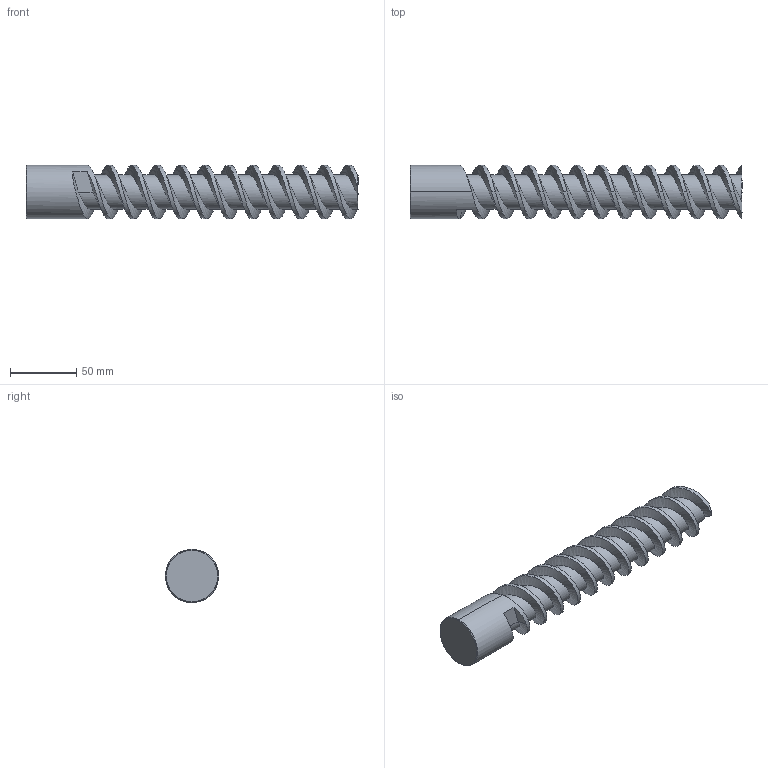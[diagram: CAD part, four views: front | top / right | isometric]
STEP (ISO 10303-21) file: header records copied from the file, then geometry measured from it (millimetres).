
FILE_DESCRIPTION (( 'STEP AP214' ), '1' );
FILE_NAME ('E2122_40_250.STEP', '2013-04-10T07:12:19', ( '' ), ( '' ), 'SwSTEP 2.0', 'SolidWorks 2013', '' );
FILE_SCHEMA (( 'AUTOMOTIVE_DESIGN' ));
Length unit declared in the file: millimetre
Products named in the file (1): E2122_40_250
Bounding box: 250 x 40 x 40 mm (x, y, z)
Volume: 202668.8 mm3; surface area: 40599.7 mm2
Topology: 1 solids, 1 shells, 40 faces, 108 edges, 70 vertices
Faces by surface type: cylinder 24, plane 8, bspline 6, cone 2
Entity records: 8488 total; most frequent: CARTESIAN_POINT 7213, ORIENTED_EDGE 216, DIRECTION 120, EDGE_CURVE 108, VERTEX_POINT 70, UNCERTAINTY_MEASURE_WITH_UNIT 43, SURFACE_STYLE_FILL_AREA 42, FILL_AREA_STYLE 42
